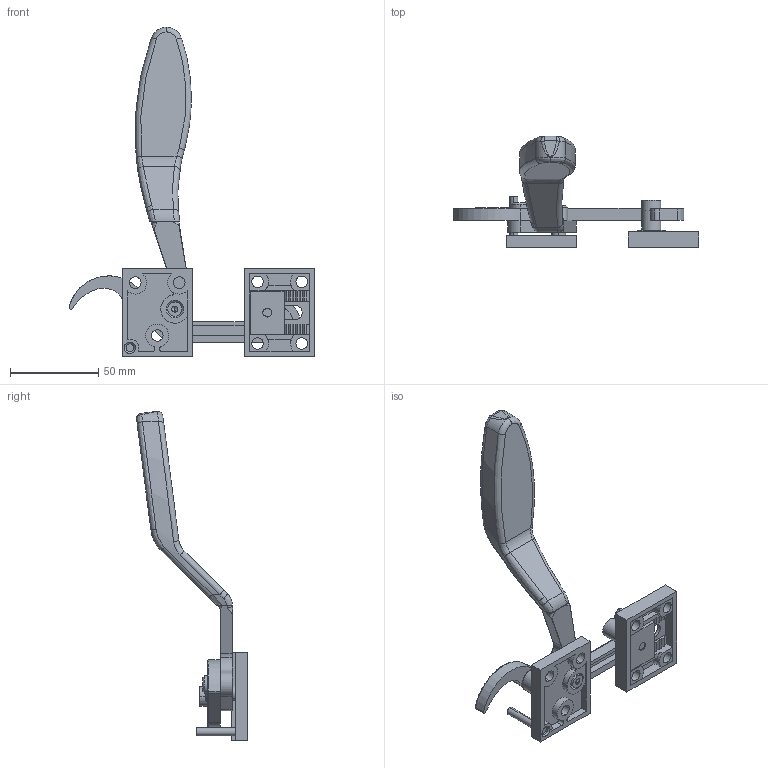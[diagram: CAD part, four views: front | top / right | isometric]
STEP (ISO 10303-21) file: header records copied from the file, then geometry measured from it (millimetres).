
FILE_DESCRIPTION (( 'STEP AP203' ), '1' );
FILE_NAME ('SK1-601x.STEP', '2024-04-18T02:56:29', ( '' ), ( '' ), 'SwSTEP 2.0', 'SolidWorks 2019', '' );
FILE_SCHEMA (( 'CONFIG_CONTROL_DESIGN' ));
Length unit declared in the file: millimetre
Products named in the file (10): SK1-601-20180324-釱赽3; 錨璃1; GB／T70．1-2000内六角圆柱头螺钉M6×30; 蚾饜极1; SK1-601x; 錨璃5; SK1-601-20180324-參忒; 錨璃4; 垫圈; SK1-601-20180324-像赽
Assembly tree (9 placements, depth 3):
  SK1-601x
    SK1-601-20180324-參忒
    SK1-601-20180324-像赽
    SK1-601-20180324-釱赽3
    蚾饜极1
      GB／T70．1-2000内六角圆柱头螺钉M6×30
      錨璃4
      垫圈
      錨璃5
      錨璃1
Bounding box: 139.51 x 63 x 186.98 mm (x, y, z)
Volume: 79622.2 mm3; surface area: 38399.7 mm2
Topology: 12 solids, 12 shells, 606 faces, 1568 edges, 1005 vertices
Faces by surface type: plane 312, cylinder 182, bspline 82, cone 24, torus 4, sphere 2
Entity records: 28425 total; most frequent: CARTESIAN_POINT 13258, ORIENTED_EDGE 3128, DIRECTION 2673, EDGE_CURVE 1564, VERTEX_POINT 1004, VECTOR 989, LINE 989, AXIS2_PLACEMENT_3D 842
